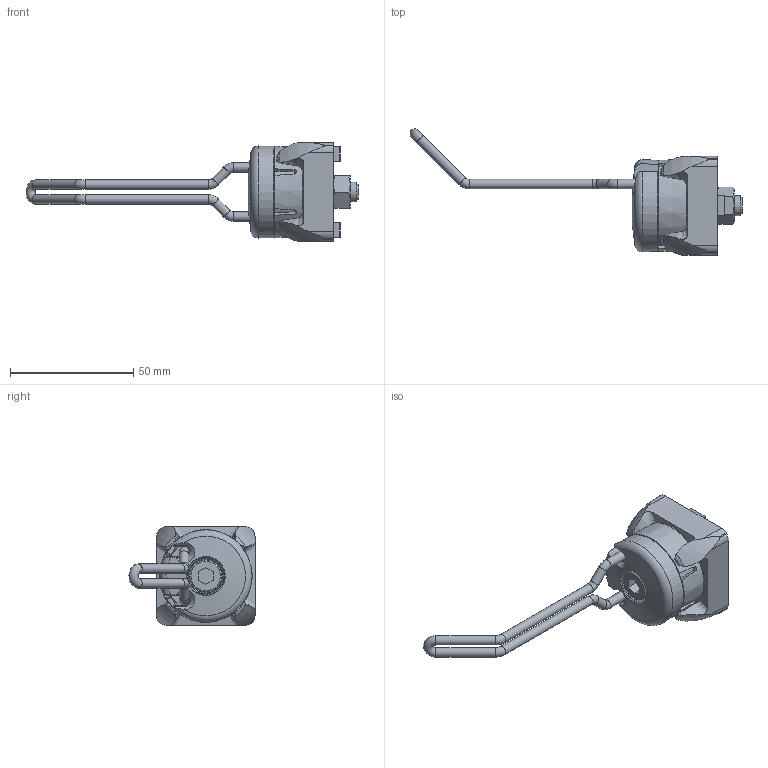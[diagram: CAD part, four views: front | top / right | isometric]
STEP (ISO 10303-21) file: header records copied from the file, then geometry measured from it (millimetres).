
FILE_DESCRIPTION(/* description */ ('STEP AP214'),/* implementation_level */ '2;1');
FILE_NAME(/* name */ '6TH240NA9030S01',/* time_stamp */ '2024-09-05T09:12:34+02:00',/* author */ ('License CC BY-ND 4.0'),/* organization */ ('CADENAS'),/* preprocessor_version */ 'ST-DEVELOPER v19.3',/* originating_system */ 'PARTsolutions',/* authorisation */ ' ');
FILE_SCHEMA (('AUTOMOTIVE_DESIGN {1 0 10303 214 3 1 1}'));
Length unit declared in the file: millimetre
Products named in the file (7): 6TH240NA9030S01; 6TH240NA9030S01_1; 6TH240NA9030S01_3; 6TH240NA9030S01_44; 6TH240NA9030S01_5; 6TH240NA9030S01_6; 6TH240NA9030S01_2
Assembly tree (7 placements, depth 2):
  6TH240NA9030S01
    6TH240NA9030S01_1
    6TH240NA9030S01_3
    6TH240NA9030S01_44
    6TH240NA9030S01_5
    6TH240NA9030S01_6
    6TH240NA9030S01_2  x2
Bounding box: 134.68 x 51.16 x 40 mm (x, y, z)
Volume: 43773.4 mm3; surface area: 22902.1 mm2
Topology: 7 solids, 7 shells, 399 faces, 1066 edges, 696 vertices
Faces by surface type: plane 163, cylinder 153, torus 48, cone 30, bspline 4, sphere 1
Full cylindrical faces by diameter (mm): 3.8 x12, 6.647 x1, 8 x1, 13 x1
Entity records: 11688 total; most frequent: CARTESIAN_POINT 2656, DIRECTION 1851, ORIENTED_EDGE 1826, EDGE_CURVE 913, AXIS2_PLACEMENT_3D 716, VERTEX_POINT 623, EDGE_LOOP 430, FACE_BOUND 430
